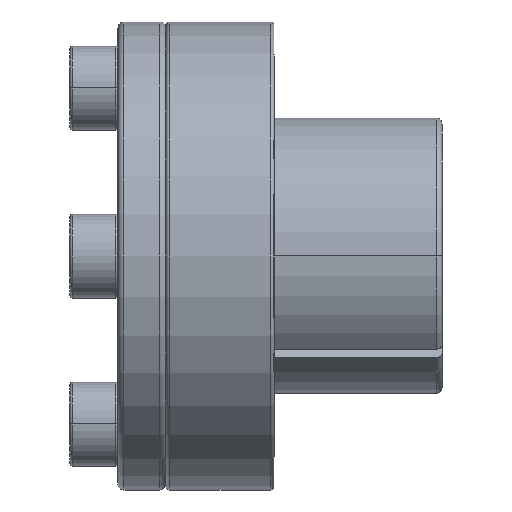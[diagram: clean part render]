
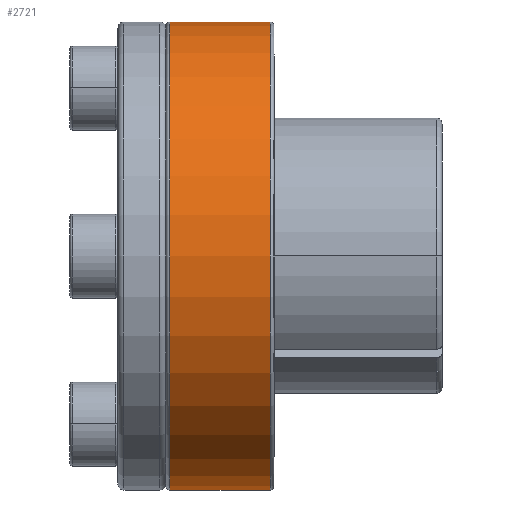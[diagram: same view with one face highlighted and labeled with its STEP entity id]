
A CAD part, front view. The second image highlights one B-rep face of the part: STEP entity #2721.
In plain terms, the highlighted cylindrical face has radius 19.5 mm (diameter 39 mm), a partial arc.
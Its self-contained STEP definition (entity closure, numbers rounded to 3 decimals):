
#26 = CIRCLE ( 'NONE', #3502, 19.5 ) ;
#173 = CARTESIAN_POINT ( 'NONE',  ( 12.7, 0., -19.5 ) ) ;
#300 = AXIS2_PLACEMENT_3D ( 'NONE', #5386, #3858, #4507 ) ;
#316 = ORIENTED_EDGE ( 'NONE', *, *, #373, .T. ) ;
#354 = DIRECTION ( 'NONE',  ( 1., 0., 0. ) ) ;
#373 = EDGE_CURVE ( 'NONE', #460, #3041, #2511, .T. ) ;
#460 = VERTEX_POINT ( 'NONE', #2765 ) ;
#470 = LINE ( 'NONE', #5708, #5750 ) ;
#679 = CARTESIAN_POINT ( 'NONE',  ( 13., 0., 19.5 ) ) ;
#1149 = VECTOR ( 'NONE', #2693, 1000. ) ;
#1493 = FACE_OUTER_BOUND ( 'NONE', #6224, .T. ) ;
#1892 = DIRECTION ( 'NONE',  ( -1., 0., 0. ) ) ;
#1917 = VERTEX_POINT ( 'NONE', #173 ) ;
#2072 = VERTEX_POINT ( 'NONE', #6569 ) ;
#2511 = LINE ( 'NONE', #679, #1149 ) ;
#2693 = DIRECTION ( 'NONE',  ( -1., 0., 0. ) ) ;
#2698 = ORIENTED_EDGE ( 'NONE', *, *, #6466, .F. ) ;
#2721 = ADVANCED_FACE ( 'NONE', ( #1493 ), #5028, .T. ) ;
#2726 = DIRECTION ( 'NONE',  ( -1., 0., 0. ) ) ;
#2765 = CARTESIAN_POINT ( 'NONE',  ( 12.7, 0., 19.5 ) ) ;
#2959 = CIRCLE ( 'NONE', #4040, 19.5 ) ;
#3041 = VERTEX_POINT ( 'NONE', #4431 ) ;
#3502 = AXIS2_PLACEMENT_3D ( 'NONE', #3867, #1892, #5947 ) ;
#3571 = EDGE_CURVE ( 'NONE', #3041, #2072, #2959, .T. ) ;
#3858 = DIRECTION ( 'NONE',  ( -1., 0., 0. ) ) ;
#3867 = CARTESIAN_POINT ( 'NONE',  ( 12.7, 0., 0. ) ) ;
#4040 = AXIS2_PLACEMENT_3D ( 'NONE', #6542, #354, #4464 ) ;
#4431 = CARTESIAN_POINT ( 'NONE',  ( 4.3, 0., 19.5 ) ) ;
#4464 = DIRECTION ( 'NONE',  ( 0., 0., -1. ) ) ;
#4507 = DIRECTION ( 'NONE',  ( 0., 0., 1. ) ) ;
#4590 = ORIENTED_EDGE ( 'NONE', *, *, #3571, .T. ) ;
#4940 = EDGE_CURVE ( 'NONE', #1917, #460, #26, .T. ) ;
#5028 = CYLINDRICAL_SURFACE ( 'NONE', #300, 19.5 ) ;
#5386 = CARTESIAN_POINT ( 'NONE',  ( 13., 0., 0. ) ) ;
#5708 = CARTESIAN_POINT ( 'NONE',  ( 13., 0., -19.5 ) ) ;
#5740 = ORIENTED_EDGE ( 'NONE', *, *, #4940, .T. ) ;
#5750 = VECTOR ( 'NONE', #2726, 1000. ) ;
#5947 = DIRECTION ( 'NONE',  ( 0., 0., -1. ) ) ;
#6224 = EDGE_LOOP ( 'NONE', ( #2698, #5740, #316, #4590 ) ) ;
#6466 = EDGE_CURVE ( 'NONE', #1917, #2072, #470, .T. ) ;
#6542 = CARTESIAN_POINT ( 'NONE',  ( 4.3, 0., 0. ) ) ;
#6569 = CARTESIAN_POINT ( 'NONE',  ( 4.3, 0., -19.5 ) ) ;
